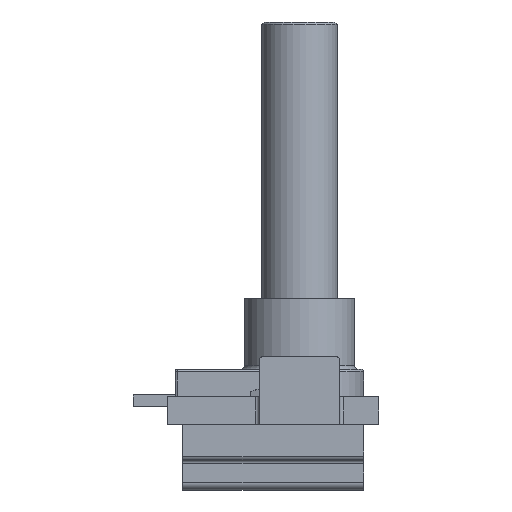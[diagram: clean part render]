
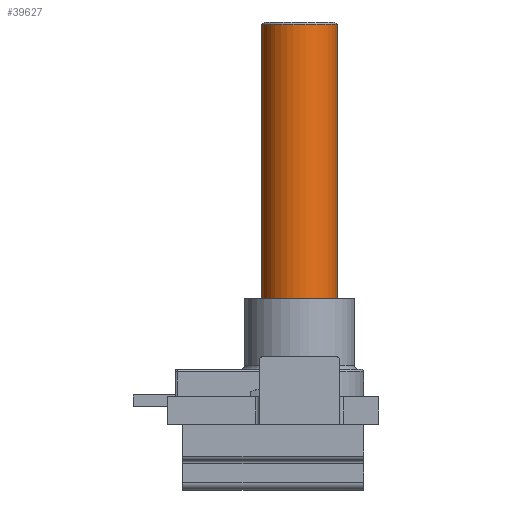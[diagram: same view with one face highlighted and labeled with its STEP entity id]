
A CAD part, front view. The second image highlights one B-rep face of the part: STEP entity #39627.
In plain terms, the highlighted cylindrical face has radius 5 mm (diameter 10 mm), a full revolution.
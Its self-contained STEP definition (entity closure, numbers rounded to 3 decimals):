
#748=CYLINDRICAL_SURFACE('',#48911,5.);
#1315=CIRCLE('',#48912,5.);
#1316=CIRCLE('',#48913,5.);
#18762=ORIENTED_EDGE('',*,*,#24482,.T.);
#18763=ORIENTED_EDGE('',*,*,#24483,.F.);
#24482=EDGE_CURVE('',#28310,#28310,#1315,.T.);
#24483=EDGE_CURVE('',#28311,#28311,#1316,.T.);
#28310=VERTEX_POINT('',#85477);
#28311=VERTEX_POINT('',#85479);
#33122=EDGE_LOOP('',(#18762));
#33123=EDGE_LOOP('',(#18763));
#35797=FACE_BOUND('',#33122,.T.);
#35798=FACE_BOUND('',#33123,.T.);
#39627=ADVANCED_FACE('',(#35797,#35798),#748,.T.);
#48911=AXIS2_PLACEMENT_3D('',#85475,#56861,#56862);
#48912=AXIS2_PLACEMENT_3D('',#85476,#56863,#56864);
#48913=AXIS2_PLACEMENT_3D('',#85478,#56865,#56866);
#56861=DIRECTION('',(0.,0.,-1.));
#56862=DIRECTION('',(-1.,0.,0.));
#56863=DIRECTION('',(0.,0.,-1.));
#56864=DIRECTION('',(-1.,0.,0.));
#56865=DIRECTION('',(0.,0.,-1.));
#56866=DIRECTION('',(1.,0.,0.));
#85475=CARTESIAN_POINT('',(0.,0.,50.));
#85476=CARTESIAN_POINT('',(0.,0.,49.7));
#85477=CARTESIAN_POINT('',(-5.,0.,49.7));
#85478=CARTESIAN_POINT('',(0.,0.,0.));
#85479=CARTESIAN_POINT('',(5.,0.,0.));
